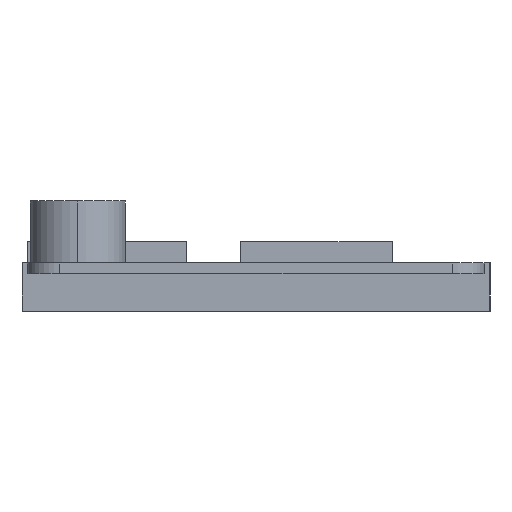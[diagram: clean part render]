
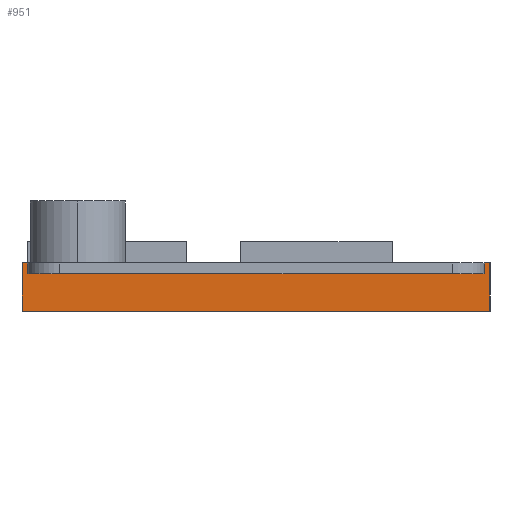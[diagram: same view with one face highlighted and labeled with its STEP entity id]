
A CAD part, left-side view. The second image highlights one B-rep face of the part: STEP entity #951.
In plain terms, the highlighted planar face has unit normal (-1, 0, 0).
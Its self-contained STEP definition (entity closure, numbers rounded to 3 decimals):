
#53=DIRECTION('',(0.,-1.,0.));
#54=VECTOR('',#53,0.5);
#55=CARTESIAN_POINT('',(-39.871,-21.4,0.));
#56=LINE('',#55,#54);
#79=DIRECTION('',(0.,-1.,0.));
#80=VECTOR('',#79,0.5);
#81=CARTESIAN_POINT('',(-39.871,21.9,0.));
#82=LINE('',#81,#80);
#207=DIRECTION('',(0.,1.,0.));
#208=VECTOR('',#207,42.8);
#209=CARTESIAN_POINT('',(-39.871,-21.4,-1.));
#210=LINE('',#209,#208);
#283=DIRECTION('',(0.,0.,-1.));
#284=VECTOR('',#283,4.5);
#285=CARTESIAN_POINT('',(-39.871,21.9,0.));
#286=LINE('',#285,#284);
#287=DIRECTION('',(0.,0.,1.));
#288=VECTOR('',#287,1.);
#289=CARTESIAN_POINT('',(-39.871,-21.4,-1.));
#290=LINE('',#289,#288);
#311=DIRECTION('',(0.,0.,1.));
#312=VECTOR('',#311,1.);
#313=CARTESIAN_POINT('',(-39.871,21.4,-1.));
#314=LINE('',#313,#312);
#335=DIRECTION('',(0.,-1.,0.));
#336=VECTOR('',#335,43.8);
#337=CARTESIAN_POINT('',(-39.871,21.9,-4.5));
#338=LINE('',#337,#336);
#363=DIRECTION('',(0.,0.,-1.));
#364=VECTOR('',#363,4.5);
#365=CARTESIAN_POINT('',(-39.871,-21.9,0.));
#366=LINE('',#365,#364);
#574=CARTESIAN_POINT('',(-39.871,21.9,0.));
#576=VERTEX_POINT('',#574);
#577=CARTESIAN_POINT('',(-39.871,-21.9,0.));
#579=VERTEX_POINT('',#577);
#582=CARTESIAN_POINT('',(-39.871,21.9,-4.5));
#584=VERTEX_POINT('',#582);
#585=CARTESIAN_POINT('',(-39.871,-21.9,-4.5));
#586=VERTEX_POINT('',#585);
#589=CARTESIAN_POINT('',(-39.871,-21.4,-1.));
#590=CARTESIAN_POINT('',(-39.871,21.4,-1.));
#591=VERTEX_POINT('',#589);
#592=VERTEX_POINT('',#590);
#597=CARTESIAN_POINT('',(-39.871,21.4,0.));
#598=VERTEX_POINT('',#597);
#601=CARTESIAN_POINT('',(-39.871,-21.4,0.));
#602=VERTEX_POINT('',#601);
#931=CARTESIAN_POINT('',(-39.871,21.9,0.));
#932=DIRECTION('',(-1.,0.,0.));
#933=DIRECTION('',(0.,-1.,0.));
#934=AXIS2_PLACEMENT_3D('',#931,#932,#933);
#935=PLANE('',#934);
#936=ORIENTED_EDGE('',*,*,#796,.F.);
#938=ORIENTED_EDGE('',*,*,#937,.T.);
#939=ORIENTED_EDGE('',*,*,#680,.T.);
#941=ORIENTED_EDGE('',*,*,#940,.T.);
#943=ORIENTED_EDGE('',*,*,#942,.F.);
#945=ORIENTED_EDGE('',*,*,#944,.F.);
#946=ORIENTED_EDGE('',*,*,#692,.T.);
#948=ORIENTED_EDGE('',*,*,#947,.F.);
#949=EDGE_LOOP('',(#936,#938,#939,#941,#943,#945,#946,#948));
#950=FACE_OUTER_BOUND('',#949,.F.);
#680=EDGE_CURVE('',#602,#579,#56,.T.);
#692=EDGE_CURVE('',#576,#598,#82,.T.);
#796=EDGE_CURVE('',#591,#592,#210,.T.);
#937=EDGE_CURVE('',#591,#602,#290,.T.);
#940=EDGE_CURVE('',#579,#586,#366,.T.);
#942=EDGE_CURVE('',#584,#586,#338,.T.);
#944=EDGE_CURVE('',#576,#584,#286,.T.);
#947=EDGE_CURVE('',#592,#598,#314,.T.);
#951=ADVANCED_FACE('',(#950),#935,.T.);
